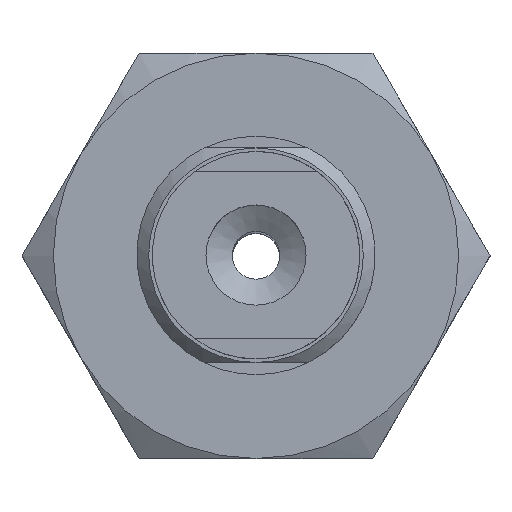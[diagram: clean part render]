
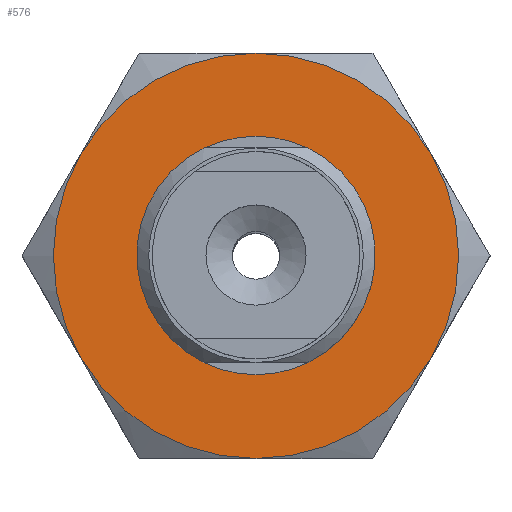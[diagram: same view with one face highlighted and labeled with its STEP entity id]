
A CAD part, top view. The second image highlights one B-rep face of the part: STEP entity #576.
In plain terms, the highlighted planar face has unit normal (0, 0, 1).
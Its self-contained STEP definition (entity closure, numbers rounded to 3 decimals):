
#576=ADVANCED_FACE('',(#846,#847),#848,.T.);
#846=FACE_BOUND('',#1242,.T.);
#847=FACE_OUTER_BOUND('',#1243,.T.);
#848=PLANE('',#1244);
#1242=EDGE_LOOP('',(#1932));
#1243=EDGE_LOOP('',(#1933,#1934,#1935,#1936,#1937,#1938));
#1244=AXIS2_PLACEMENT_3D('',#1939,#1940,#1941);
#1932=ORIENTED_EDGE('',*,*,#2772,.F.);
#1933=ORIENTED_EDGE('',*,*,#2747,.F.);
#1934=ORIENTED_EDGE('',*,*,#2762,.F.);
#1935=ORIENTED_EDGE('',*,*,#2766,.F.);
#1936=ORIENTED_EDGE('',*,*,#2770,.F.);
#1937=ORIENTED_EDGE('',*,*,#2749,.F.);
#1938=ORIENTED_EDGE('',*,*,#2742,.F.);
#1939=CARTESIAN_POINT('',(-9.815,-8.5,4.0));
#1940=DIRECTION('',(0.0,0.0,1.0));
#1941=DIRECTION('',(1.0,0.0,0.0));
#2742=EDGE_CURVE('',#3137,#3124,#3139,.T.);
#2747=EDGE_CURVE('',#3146,#3137,#3149,.T.);
#2749=EDGE_CURVE('',#3124,#3134,#3151,.T.);
#2762=EDGE_CURVE('',#3167,#3146,#3172,.T.);
#2766=EDGE_CURVE('',#3158,#3167,#3176,.T.);
#2770=EDGE_CURVE('',#3134,#3158,#3181,.T.);
#2772=EDGE_CURVE('',#3183,#3183,#3184,.T.);
#3124=VERTEX_POINT('',#3810);
#3134=VERTEX_POINT('',#3837);
#3137=VERTEX_POINT('',#3848);
#3139=CIRCLE('',#3854,8.5);
#3146=VERTEX_POINT('',#3869);
#3149=CIRCLE('',#3876,8.5);
#3151=CIRCLE('',#3882,8.5);
#3158=VERTEX_POINT('',#3898);
#3167=VERTEX_POINT('',#3924);
#3172=CIRCLE('',#3941,8.5);
#3176=CIRCLE('',#3950,8.5);
#3181=CIRCLE('',#3955,8.5);
#3183=VERTEX_POINT('',#3961);
#3184=CIRCLE('',#3962,4.5);
#3810=CARTESIAN_POINT('',(-7.361,4.25,4.0));
#3837=CARTESIAN_POINT('',(0.,8.5,4.0));
#3848=CARTESIAN_POINT('',(-7.361,-4.25,4.0));
#3854=AXIS2_PLACEMENT_3D('',#4633,#4634,#4635);
#3869=CARTESIAN_POINT('',(0.,-8.5,4.0));
#3876=AXIS2_PLACEMENT_3D('',#4639,#4640,#4641);
#3882=AXIS2_PLACEMENT_3D('',#4642,#4643,#4644);
#3898=CARTESIAN_POINT('',(7.361,4.25,4.0));
#3924=CARTESIAN_POINT('',(7.361,-4.25,4.0));
#3941=AXIS2_PLACEMENT_3D('',#4650,#4651,#4652);
#3950=AXIS2_PLACEMENT_3D('',#4657,#4658,#4659);
#3955=AXIS2_PLACEMENT_3D('',#4669,#4670,#4671);
#3961=CARTESIAN_POINT('',(0.0,-4.5,4.0));
#3962=AXIS2_PLACEMENT_3D('',#4672,#4673,#4674);
#4633=CARTESIAN_POINT('',(0.,0.,4.0));
#4634=DIRECTION('',(0.,0.,-1.0));
#4635=DIRECTION('',(0.866,0.5,0.));
#4639=CARTESIAN_POINT('',(0.,0.,4.0));
#4640=DIRECTION('',(0.,0.,-1.0));
#4641=DIRECTION('',(0.866,0.5,0.));
#4642=CARTESIAN_POINT('',(0.,0.,4.0));
#4643=DIRECTION('',(0.,0.,-1.0));
#4644=DIRECTION('',(0.866,0.5,0.));
#4650=CARTESIAN_POINT('',(0.,0.,4.0));
#4651=DIRECTION('',(0.,0.,-1.0));
#4652=DIRECTION('',(0.866,0.5,0.));
#4657=CARTESIAN_POINT('',(0.,0.,4.0));
#4658=DIRECTION('',(0.,0.,-1.0));
#4659=DIRECTION('',(0.866,0.5,0.));
#4669=CARTESIAN_POINT('',(0.,0.,4.0));
#4670=DIRECTION('',(0.,0.,-1.0));
#4671=DIRECTION('',(0.866,0.5,0.));
#4672=CARTESIAN_POINT('',(0.0,0.0,4.0));
#4673=DIRECTION('',(0.0,0.,1.0));
#4674=DIRECTION('',(0.0,-1.0,0.));
